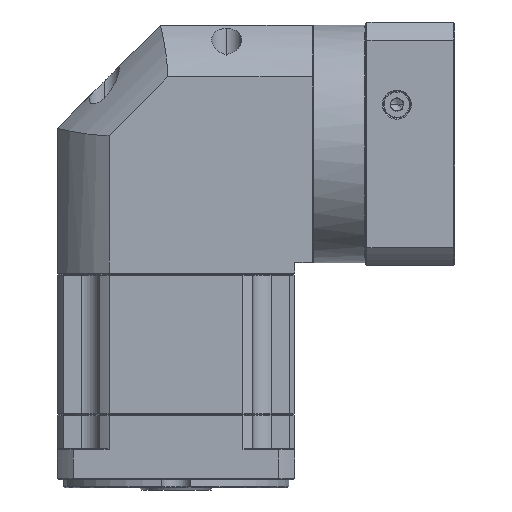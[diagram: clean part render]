
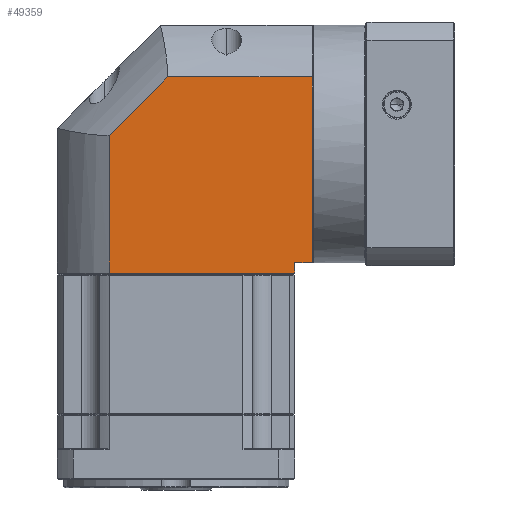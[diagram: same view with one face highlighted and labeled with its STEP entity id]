
A CAD part, front view. The second image highlights one B-rep face of the part: STEP entity #49359.
In plain terms, the highlighted planar face has unit normal (0, -1, 0).
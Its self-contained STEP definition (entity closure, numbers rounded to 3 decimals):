
#4475 = CARTESIAN_POINT ( 'NONE',  ( -17.02, 5.353, 45.963 ) ) ;
#6376 = EDGE_CURVE ( 'NONE', #16824, #33423, #45988, .T. ) ;
#8745 = VERTEX_POINT ( 'NONE', #76320 ) ;
#10203 = EDGE_CURVE ( 'NONE', #88869, #8745, #29049, .T. ) ;
#12573 = AXIS2_PLACEMENT_3D ( 'NONE', #62567, #21985, #92316 ) ;
#14492 = CARTESIAN_POINT ( 'NONE',  ( 36.419, 5.353, 45.963 ) ) ;
#16824 = VERTEX_POINT ( 'NONE', #86733 ) ;
#19481 = ORIENTED_EDGE ( 'NONE', *, *, #6376, .F. ) ;
#20105 = EDGE_CURVE ( 'NONE', #66082, #88869, #95824, .T. ) ;
#20557 = LINE ( 'NONE', #4475, #77953 ) ;
#20671 = EDGE_CURVE ( 'NONE', #33423, #32404, #20557, .T. ) ;
#21985 = DIRECTION ( 'NONE',  ( 0., 1., 0. ) ) ;
#23393 = VECTOR ( 'NONE', #104833, 1000. ) ;
#26854 = DIRECTION ( 'NONE',  ( -1., 0., 0. ) ) ;
#29049 = LINE ( 'NONE', #77046, #57814 ) ;
#32404 = VERTEX_POINT ( 'NONE', #55314 ) ;
#32768 = EDGE_LOOP ( 'NONE', ( #80303, #112955, #130859, #86360, #19481, #118759, #99818 ) ) ;
#33423 = VERTEX_POINT ( 'NONE', #14492 ) ;
#38357 = LINE ( 'NONE', #81683, #111732 ) ;
#43831 = CARTESIAN_POINT ( 'NONE',  ( 8.08, 5.353, -48.936 ) ) ;
#45988 = LINE ( 'NONE', #105389, #127263 ) ;
#46524 = CARTESIAN_POINT ( 'NONE',  ( -17.02, 5.353, -43.936 ) ) ;
#47343 = LINE ( 'NONE', #63510, #23393 ) ;
#49359 = ADVANCED_FACE ( 'NONE', ( #104569 ), #62143, .F. ) ;
#54915 = EDGE_CURVE ( 'NONE', #112442, #16824, #38357, .T. ) ;
#55013 = VECTOR ( 'NONE', #126497, 1000. ) ;
#55314 = CARTESIAN_POINT ( 'NONE',  ( 106.38, 5.353, 45.963 ) ) ;
#57814 = VECTOR ( 'NONE', #86441, 1000. ) ;
#62143 = PLANE ( 'NONE',  #12573 ) ;
#62567 = CARTESIAN_POINT ( 'NONE',  ( -17.02, 5.353, -55.436 ) ) ;
#63510 = CARTESIAN_POINT ( 'NONE',  ( -17.02, 5.353, -48.936 ) ) ;
#66082 = VERTEX_POINT ( 'NONE', #81835 ) ;
#71941 = DIRECTION ( 'NONE',  ( 0., 0., 1. ) ) ;
#76320 = CARTESIAN_POINT ( 'NONE',  ( 97.98, 5.353, -48.936 ) ) ;
#77046 = CARTESIAN_POINT ( 'NONE',  ( 97.98, 5.353, -55.436 ) ) ;
#77953 = VECTOR ( 'NONE', #87801, 1000. ) ;
#80303 = ORIENTED_EDGE ( 'NONE', *, *, #10203, .F. ) ;
#81683 = CARTESIAN_POINT ( 'NONE',  ( 8.08, 5.353, -55.436 ) ) ;
#81835 = CARTESIAN_POINT ( 'NONE',  ( 106.38, 5.353, -43.936 ) ) ;
#83095 = VECTOR ( 'NONE', #26854, 1000. ) ;
#85124 = CARTESIAN_POINT ( 'NONE',  ( 106.38, 5.353, -55.436 ) ) ;
#86360 = ORIENTED_EDGE ( 'NONE', *, *, #20671, .F. ) ;
#86441 = DIRECTION ( 'NONE',  ( 0., 0., -1. ) ) ;
#86733 = CARTESIAN_POINT ( 'NONE',  ( 8.08, 5.353, 17.625 ) ) ;
#87801 = DIRECTION ( 'NONE',  ( 1., 0., 0. ) ) ;
#88869 = VERTEX_POINT ( 'NONE', #113892 ) ;
#92316 = DIRECTION ( 'NONE',  ( 1., 0., 0. ) ) ;
#95607 = EDGE_CURVE ( 'NONE', #8745, #112442, #47343, .T. ) ;
#95824 = LINE ( 'NONE', #46524, #83095 ) ;
#99818 = ORIENTED_EDGE ( 'NONE', *, *, #95607, .F. ) ;
#104569 = FACE_OUTER_BOUND ( 'NONE', #32768, .T. ) ;
#104833 = DIRECTION ( 'NONE',  ( -1., 0., 0. ) ) ;
#105389 = CARTESIAN_POINT ( 'NONE',  ( 8.08, 5.353, 17.625 ) ) ;
#105930 = LINE ( 'NONE', #85124, #55013 ) ;
#111732 = VECTOR ( 'NONE', #71941, 1000. ) ;
#112442 = VERTEX_POINT ( 'NONE', #43831 ) ;
#112955 = ORIENTED_EDGE ( 'NONE', *, *, #20105, .F. ) ;
#113892 = CARTESIAN_POINT ( 'NONE',  ( 97.98, 5.353, -43.936 ) ) ;
#114021 = EDGE_CURVE ( 'NONE', #32404, #66082, #105930, .T. ) ;
#116512 = DIRECTION ( 'NONE',  ( 0.707, 0., 0.707 ) ) ;
#118759 = ORIENTED_EDGE ( 'NONE', *, *, #54915, .F. ) ;
#126497 = DIRECTION ( 'NONE',  ( 0., 0., -1. ) ) ;
#127263 = VECTOR ( 'NONE', #116512, 1000. ) ;
#130859 = ORIENTED_EDGE ( 'NONE', *, *, #114021, .F. ) ;
